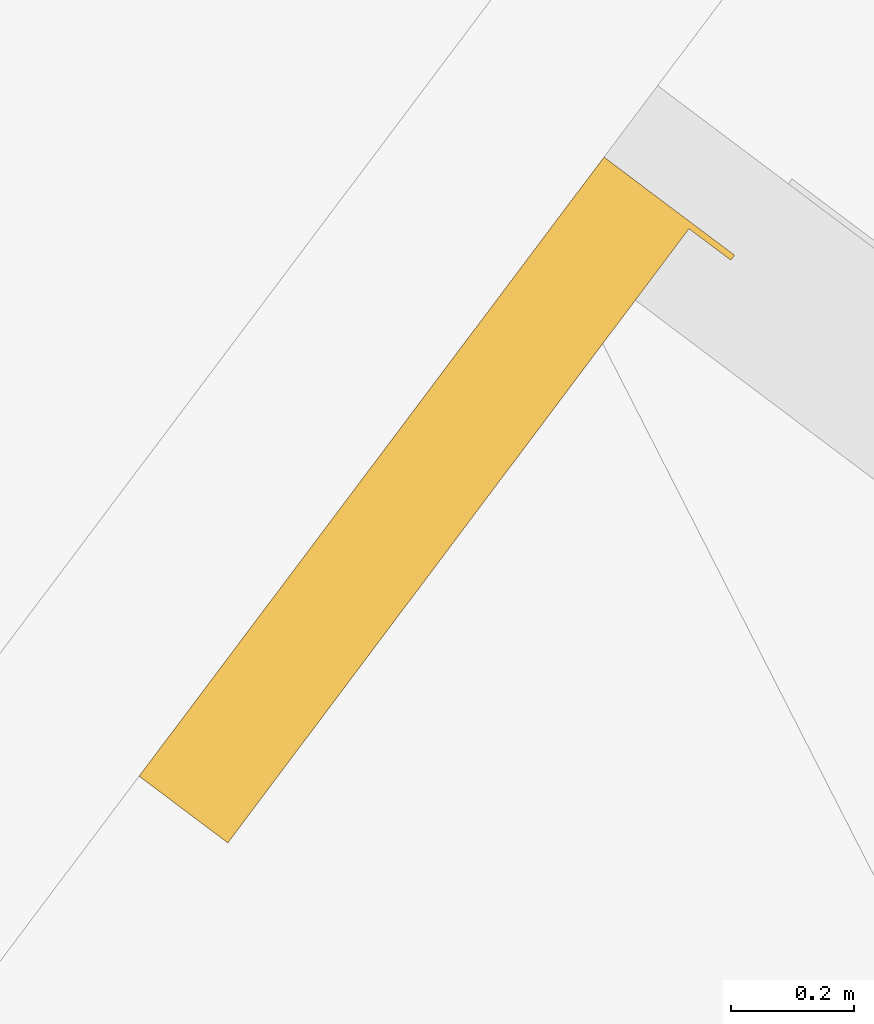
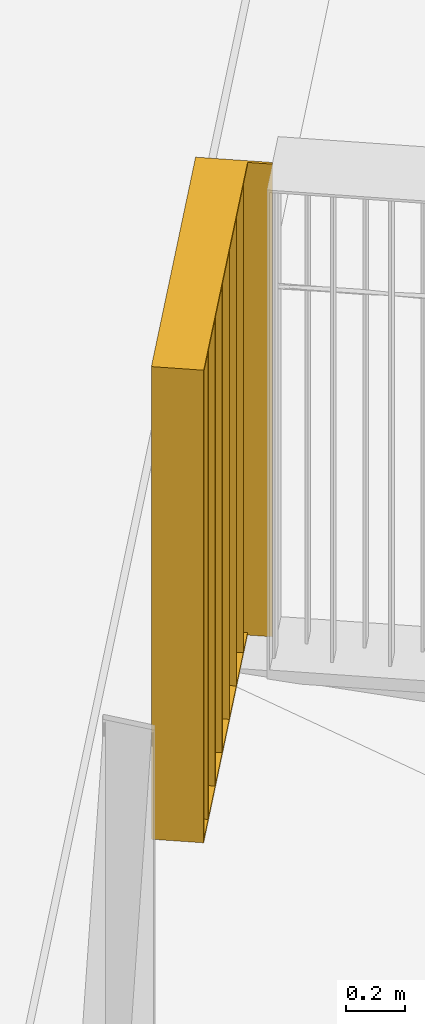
# One storey, part 32 of 33: 1 railing.
"""IFC2X3 building model written with IfcOpenShell, lengths in metres."""

from ifc_helpers import new_model, entity, si_unit, converted_unit, derived_unit, direction, frame, origin, place, context, subcontext, project, spatial, faceted_brep, source, transform, mapped, material, type_object, type_shapes, element, save


model = new_model("IFC2X3")

# Units and contexts
model_context = context("Model", 3, precision=1e-05, world=origin(), true_north=direction((6.123031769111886e-17, 1.0)))
body_context = subcontext(model_context, "Body", "Model", "MODEL_VIEW")
ifc_project = project(units=[si_unit("LENGTHUNIT", "METRE"), si_unit("AREAUNIT", "SQUARE_METRE"), si_unit("VOLUMEUNIT", "CUBIC_METRE"), converted_unit("PLANEANGLEUNIT", "DEGREE", entity("IfcRatioMeasure", 0.017453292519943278), si_unit("PLANEANGLEUNIT", "RADIAN"), dimensions=[0, 0, 0, 0, 0, 0, 0]), si_unit("MASSUNIT", "GRAM", prefix="KILO"), derived_unit("MASSDENSITYUNIT", [(si_unit("MASSUNIT", "GRAM", prefix="KILO"), 1), (si_unit("LENGTHUNIT", "METRE"), -3)]), derived_unit("IONCONCENTRATIONUNIT", [(si_unit("MASSUNIT", "GRAM", prefix="KILO"), 1), (si_unit("LENGTHUNIT", "METRE"), -3)]), derived_unit("MOMENTOFINERTIAUNIT", [(si_unit("LENGTHUNIT", "METRE"), 4)]), si_unit("TIMEUNIT", "SECOND"), si_unit("FREQUENCYUNIT", "HERTZ"), si_unit("THERMODYNAMICTEMPERATUREUNIT", "DEGREE_CELSIUS"), derived_unit("THERMALTRANSMITTANCEUNIT", [(si_unit("MASSUNIT", "GRAM", prefix="KILO"), 1), (si_unit("THERMODYNAMICTEMPERATUREUNIT", "KELVIN"), -1), (si_unit("TIMEUNIT", "SECOND"), -3)]), derived_unit("THERMALCONDUCTANCEUNIT", [(si_unit("MASSUNIT", "GRAM", prefix="KILO"), 1), (si_unit("THERMODYNAMICTEMPERATUREUNIT", "KELVIN"), -1), (si_unit("TIMEUNIT", "SECOND"), -3), (si_unit("LENGTHUNIT", "METRE"), 1)]), derived_unit("VOLUMETRICFLOWRATEUNIT", [(si_unit("LENGTHUNIT", "METRE"), 3), (si_unit("TIMEUNIT", "SECOND"), -1)]), derived_unit("MASSFLOWRATEUNIT", [(si_unit("MASSUNIT", "GRAM", prefix="KILO"), 1), (si_unit("TIMEUNIT", "SECOND"), -1)]), derived_unit("ROTATIONALFREQUENCYUNIT", [(si_unit("TIMEUNIT", "SECOND"), -1)]), si_unit("ELECTRICCURRENTUNIT", "AMPERE"), si_unit("ELECTRICVOLTAGEUNIT", "VOLT"), si_unit("POWERUNIT", "WATT"), si_unit("FORCEUNIT", "NEWTON", prefix="KILO"), si_unit("ILLUMINANCEUNIT", "LUX"), si_unit("LUMINOUSFLUXUNIT", "LUMEN"), si_unit("LUMINOUSINTENSITYUNIT", "CANDELA"), derived_unit("USERDEFINED", [(si_unit("MASSUNIT", "GRAM", prefix="KILO"), -1), (si_unit("LENGTHUNIT", "METRE"), -2), (si_unit("TIMEUNIT", "SECOND"), 3), (si_unit("LUMINOUSFLUXUNIT", "LUMEN"), 1)]), derived_unit("USERDEFINED", [(si_unit("MASSUNIT", "GRAM", prefix="KILO"), 1), (si_unit("TIMEUNIT", "SECOND"), -3), (si_unit("LENGTHUNIT", "METRE"), 3), (si_unit("ELECTRICCURRENTUNIT", "AMPERE"), -2)]), derived_unit("SOUNDPOWERUNIT", [(si_unit("MASSUNIT", "GRAM", prefix="KILO"), 1), (si_unit("TIMEUNIT", "SECOND"), -3), (si_unit("LENGTHUNIT", "METRE"), 2)]), derived_unit("SOUNDPRESSUREUNIT", [(si_unit("MASSUNIT", "GRAM", prefix="KILO"), 1), (si_unit("LENGTHUNIT", "METRE"), -1), (si_unit("TIMEUNIT", "SECOND"), -2)]), derived_unit("LINEARVELOCITYUNIT", [(si_unit("LENGTHUNIT", "METRE"), 1), (si_unit("TIMEUNIT", "SECOND"), -1)]), si_unit("PRESSUREUNIT", "PASCAL"), derived_unit("USERDEFINED", [(si_unit("MASSUNIT", "GRAM", prefix="KILO"), 1), (si_unit("LENGTHUNIT", "METRE"), -2), (si_unit("TIMEUNIT", "SECOND"), -2)]), derived_unit("LINEARFORCEUNIT", [(si_unit("MASSUNIT", "GRAM", prefix="KILO"), 1), (si_unit("TIMEUNIT", "SECOND"), -2)]), derived_unit("PLANARFORCEUNIT", [(si_unit("MASSUNIT", "GRAM", prefix="KILO"), 1), (si_unit("LENGTHUNIT", "METRE"), -1), (si_unit("TIMEUNIT", "SECOND"), -2)]), derived_unit("SPECIFICHEATCAPACITYUNIT", [(si_unit("THERMODYNAMICTEMPERATUREUNIT", "KELVIN"), -1), (si_unit("LENGTHUNIT", "METRE"), 2), (si_unit("TIMEUNIT", "SECOND"), -2)]), derived_unit("HEATINGVALUEUNIT", [(si_unit("LENGTHUNIT", "METRE"), 2), (si_unit("TIMEUNIT", "SECOND"), -2)]), derived_unit("VAPORPERMEABILITYUNIT", [(si_unit("LENGTHUNIT", "METRE"), -1), (si_unit("TIMEUNIT", "SECOND"), 1)]), derived_unit("DYNAMICVISCOSITYUNIT", [(si_unit("MASSUNIT", "GRAM", prefix="KILO"), 1), (si_unit("TIMEUNIT", "SECOND"), -1), (si_unit("LENGTHUNIT", "METRE"), -1)]), derived_unit("THERMALEXPANSIONCOEFFICIENTUNIT", [(si_unit("THERMODYNAMICTEMPERATUREUNIT", "KELVIN"), -1)]), derived_unit("MODULUSOFELASTICITYUNIT", [(si_unit("MASSUNIT", "GRAM", prefix="KILO"), 1), (si_unit("LENGTHUNIT", "METRE"), -1), (si_unit("TIMEUNIT", "SECOND"), -2)]), derived_unit("ISOTHERMALMOISTURECAPACITYUNIT", [(si_unit("LENGTHUNIT", "METRE"), 3), (si_unit("MASSUNIT", "GRAM", prefix="KILO"), -1)]), derived_unit("MOISTUREDIFFUSIVITYUNIT", [(si_unit("TIMEUNIT", "SECOND"), -1), (si_unit("LENGTHUNIT", "METRE"), 2)])], contexts=[model_context])

# Site, building, storey
site_placement = place(None, origin())
site = spatial("IfcSite", under=ifc_project, at=site_placement, Name="Superficie", CompositionType="ELEMENT")
building_placement = place(site_placement, frame((0.0, 0.0, 235.0), z_axis=(0.0, 0.0, 1.0), x_axis=(-0.7996477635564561, 0.6004693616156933, 0.0)))
building = spatial("IfcBuilding", under=site, at=building_placement, CompositionType="ELEMENT")
storey_placement = place(building_placement, origin())
storey = spatial("IfcBuildingStorey", under=building, at=storey_placement, Name="P0- Escola", CompositionType="ELEMENT", Elevation=0.0)

# Railing
ifc_material = material(Name="<Unnamed>")
railing_type = type_object("IfcRailingType", Name="SER URB- SM1d- TANCA LATERAL PETITA CANTONADA:SER URB- SM1d- TANCA LATERAL PETITA CANTONADA", PredefinedType="NOTDEFINED", material=ifc_material)
shared_shape = source(origin(), body_context, "Body", "Brep", [
    faceted_brep([(0.26500000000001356, 1.0300000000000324, 1.9599999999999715), (0.18500000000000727, 1.0300000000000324, 1.959999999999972), (0.18500000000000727, 1.0200000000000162, 1.959999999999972), (0.26500000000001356, 1.0200000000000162, 1.9599999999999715), (0.26500000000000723, 1.0300000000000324, 0.010000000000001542), (0.26500000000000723, 1.0200000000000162, 0.010000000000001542), (0.185000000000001, 1.0200000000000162, 0.010000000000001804), (0.185000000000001, 1.0300000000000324, 0.010000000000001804)], [[[0, 1, 2, 3]], [[4, 5, 6, 7]], [[1, 0, 4, 7]], [[2, 1, 7, 6]], [[3, 2, 6, 5]], [[0, 3, 5, 4]]]),
    faceted_brep([(0.08500000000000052, 1.1300000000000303, 1.9600000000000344), (0.08500000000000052, 1.120000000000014, 1.9600000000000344), (0.16500000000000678, 1.120000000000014, 1.9600000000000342), (0.16500000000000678, 1.1300000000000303, 1.9600000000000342), (0.08499999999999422, 1.1300000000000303, 0.010000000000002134), (0.16500000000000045, 1.1300000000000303, 0.010000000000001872), (0.16500000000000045, 1.120000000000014, 0.010000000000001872), (0.08499999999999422, 1.120000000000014, 0.010000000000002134)], [[[0, 1, 2, 3]], [[4, 5, 6, 7]], [[3, 5, 4, 0]], [[2, 6, 5, 3]], [[1, 7, 6, 2]], [[0, 4, 7, 1]]]),
    faceted_brep([(0.08500000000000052, 0.9300000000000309, 1.9600000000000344), (0.08500000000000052, 0.9200000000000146, 1.9600000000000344), (0.16500000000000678, 0.9200000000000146, 1.9600000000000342), (0.16500000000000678, 0.9300000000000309, 1.9600000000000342), (0.08499999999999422, 0.9300000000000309, 0.010000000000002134), (0.16500000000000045, 0.9300000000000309, 0.010000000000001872), (0.16500000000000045, 0.9200000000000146, 0.010000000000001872), (0.08499999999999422, 0.9200000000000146, 0.010000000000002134)], [[[0, 1, 2, 3]], [[4, 5, 6, 7]], [[3, 5, 4, 0]], [[2, 6, 5, 3]], [[1, 7, 6, 2]], [[0, 4, 7, 1]]]),
    faceted_brep([(0.26500000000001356, 0.8300000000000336, 1.9599999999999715), (0.18500000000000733, 0.8300000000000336, 1.959999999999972), (0.18500000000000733, 0.8200000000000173, 1.959999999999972), (0.26500000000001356, 0.8200000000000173, 1.9599999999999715), (0.26500000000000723, 0.8300000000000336, 0.010000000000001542), (0.26500000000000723, 0.8200000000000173, 0.010000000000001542), (0.185000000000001, 0.8200000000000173, 0.010000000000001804), (0.185000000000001, 0.8300000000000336, 0.010000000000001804)], [[[0, 1, 2, 3]], [[4, 5, 6, 7]], [[1, 0, 4, 7]], [[2, 1, 7, 6]], [[3, 2, 6, 5]], [[0, 3, 5, 4]]]),
    faceted_brep([(0.26500000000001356, 0.6300000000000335, 1.9599999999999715), (0.18500000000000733, 0.6300000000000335, 1.959999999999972), (0.18500000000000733, 0.6200000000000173, 1.959999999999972), (0.26500000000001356, 0.6200000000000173, 1.9599999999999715), (0.26500000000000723, 0.6300000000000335, 0.010000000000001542), (0.26500000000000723, 0.6200000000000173, 0.010000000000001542), (0.185000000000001, 0.6200000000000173, 0.010000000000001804), (0.185000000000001, 0.6300000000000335, 0.010000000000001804)], [[[0, 1, 2, 3]], [[4, 5, 6, 7]], [[1, 0, 4, 7]], [[2, 1, 7, 6]], [[3, 2, 6, 5]], [[0, 3, 5, 4]]]),
    faceted_brep([(0.2650000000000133, 0.43000000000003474, 1.9599999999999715), (0.185000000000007, 0.43000000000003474, 1.959999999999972), (0.185000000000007, 0.42000000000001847, 1.959999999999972), (0.2650000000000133, 0.4200000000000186, 1.9599999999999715), (0.26500000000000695, 0.43000000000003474, 0.010000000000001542), (0.26500000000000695, 0.4200000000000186, 0.010000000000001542), (0.18500000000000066, 0.42000000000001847, 0.010000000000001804), (0.18500000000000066, 0.43000000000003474, 0.010000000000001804)], [[[0, 1, 2, 3]], [[4, 5, 6, 7]], [[1, 0, 4, 7]], [[2, 1, 7, 6]], [[3, 2, 6, 5]], [[0, 3, 5, 4]]]),
    faceted_brep([(0.08500000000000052, 0.7300000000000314, 1.9600000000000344), (0.08500000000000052, 0.7200000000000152, 1.9600000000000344), (0.16500000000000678, 0.7200000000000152, 1.9600000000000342), (0.16500000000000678, 0.7300000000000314, 1.9600000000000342), (0.08499999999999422, 0.7300000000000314, 0.010000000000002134), (0.1650000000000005, 0.7300000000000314, 0.010000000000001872), (0.1650000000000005, 0.7200000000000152, 0.010000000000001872), (0.08499999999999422, 0.7200000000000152, 0.010000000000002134)], [[[0, 1, 2, 3]], [[4, 5, 6, 7]], [[3, 5, 4, 0]], [[2, 6, 5, 3]], [[1, 7, 6, 2]], [[0, 4, 7, 1]]]),
    faceted_brep([(0.08500000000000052, 0.5300000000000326, 1.9600000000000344), (0.08500000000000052, 0.5200000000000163, 1.9600000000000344), (0.16500000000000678, 0.5200000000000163, 1.9600000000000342), (0.16500000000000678, 0.5300000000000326, 1.9600000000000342), (0.08499999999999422, 0.5300000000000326, 0.010000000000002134), (0.1650000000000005, 0.5300000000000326, 0.010000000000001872), (0.1650000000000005, 0.5200000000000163, 0.010000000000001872), (0.08499999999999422, 0.5200000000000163, 0.010000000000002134)], [[[0, 1, 2, 3]], [[4, 5, 6, 7]], [[3, 5, 4, 0]], [[2, 6, 5, 3]], [[1, 7, 6, 2]], [[0, 4, 7, 1]]]),
    faceted_brep([(0.0850000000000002, 0.3300000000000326, 1.9600000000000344), (0.0850000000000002, 0.3200000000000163, 1.9600000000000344), (0.16500000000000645, 0.3200000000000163, 1.9600000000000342), (0.16500000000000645, 0.3300000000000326, 1.9600000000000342), (0.08499999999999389, 0.3300000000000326, 0.010000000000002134), (0.16500000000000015, 0.3300000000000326, 0.010000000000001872), (0.16500000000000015, 0.3200000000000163, 0.010000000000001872), (0.08499999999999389, 0.3200000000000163, 0.010000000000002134)], [[[0, 1, 2, 3]], [[4, 5, 6, 7]], [[3, 5, 4, 0]], [[2, 6, 5, 3]], [[1, 7, 6, 2]], [[0, 4, 7, 1]]]),
    faceted_brep([(0.26500000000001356, 0.2300000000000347, 1.9599999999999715), (0.18500000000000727, 0.2300000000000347, 1.959999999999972), (0.18500000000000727, 0.2200000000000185, 1.959999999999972), (0.26500000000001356, 0.2200000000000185, 1.9599999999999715), (0.26500000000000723, 0.2300000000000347, 0.010000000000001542), (0.26500000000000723, 0.2200000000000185, 0.010000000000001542), (0.185000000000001, 0.2200000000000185, 0.010000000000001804), (0.185000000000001, 0.2300000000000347, 0.010000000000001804)], [[[0, 1, 2, 3]], [[4, 5, 6, 7]], [[1, 0, 4, 7]], [[2, 1, 7, 6]], [[3, 2, 6, 5]], [[0, 3, 5, 4]]]),
    faceted_brep([(0.08500000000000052, 0.1300000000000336, 1.9600000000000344), (0.08500000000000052, 0.12000000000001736, 1.9600000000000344), (0.16500000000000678, 0.12000000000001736, 1.9600000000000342), (0.16500000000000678, 0.13000000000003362, 1.9600000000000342), (0.08499999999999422, 0.1300000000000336, 0.010000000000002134), (0.16500000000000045, 0.13000000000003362, 0.010000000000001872), (0.16500000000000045, 0.12000000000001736, 0.010000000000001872), (0.08499999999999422, 0.12000000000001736, 0.010000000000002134)], [[[0, 1, 2, 3]], [[4, 5, 6, 7]], [[3, 5, 4, 0]], [[2, 6, 5, 3]], [[1, 7, 6, 2]], [[0, 4, 7, 1]]]),
    faceted_brep([(0.16792893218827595, 0.01000000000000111, 1.4829289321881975), (0.17000000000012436, 0.01000000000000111, 1.4813397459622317), (0.1724118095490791, 0.01000000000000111, 1.4803407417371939), (0.17500000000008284, 0.01000000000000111, 1.4800000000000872), (0.17758819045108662, 0.01000000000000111, 1.4803407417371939), (0.18000000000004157, 0.01000000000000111, 1.4813397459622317), (0.18207106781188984, 0.01000000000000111, 1.4829289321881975), (0.18366025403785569, 0.01000000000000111, 1.485000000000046), (0.1846592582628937, 0.01000000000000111, 1.4874118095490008), (0.18500000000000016, 0.01000000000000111, 1.4900000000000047), (0.18465925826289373, 0.01000000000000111, 1.4925881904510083), (0.18366025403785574, 0.01000000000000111, 1.494999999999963), (0.18207106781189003, 0.01000000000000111, 1.4970710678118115), (0.18000000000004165, 0.01000000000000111, 1.4986602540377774), (0.17758819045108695, 0.01000000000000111, 1.4996592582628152), (0.1750000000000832, 0.01000000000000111, 1.4999999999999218), (0.1724118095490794, 0.01000000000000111, 1.4996592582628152), (0.17000000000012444, 0.01000000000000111, 1.4986602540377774), (0.16792893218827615, 0.01000000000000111, 1.4970710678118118), (0.1663397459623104, 0.01000000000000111, 1.4949999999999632), (0.16534074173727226, 0.01000000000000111, 1.4925881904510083), (0.16500000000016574, 0.01000000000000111, 1.4900000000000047), (0.16534074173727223, 0.01000000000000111, 1.4874118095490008), (0.16633974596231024, 0.01000000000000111, 1.485000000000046), (0.1724118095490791, 1.24600000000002, 1.4803407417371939), (0.17000000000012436, 1.24600000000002, 1.4813397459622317), (0.16792893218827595, 1.24600000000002, 1.4829289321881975), (0.16633974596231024, 1.24600000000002, 1.485000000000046), (0.16534074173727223, 1.24600000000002, 1.4874118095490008), (0.16500000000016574, 1.24600000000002, 1.4900000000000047), (0.16534074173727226, 1.24600000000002, 1.4925881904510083), (0.1663397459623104, 1.24600000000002, 1.4949999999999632), (0.16792893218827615, 1.24600000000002, 1.4970710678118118), (0.17000000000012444, 1.24600000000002, 1.4986602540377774), (0.1724118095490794, 1.24600000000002, 1.4996592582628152), (0.1750000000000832, 1.24600000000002, 1.4999999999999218), (0.17758819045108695, 1.24600000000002, 1.4996592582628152), (0.18000000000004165, 1.24600000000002, 1.4986602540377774), (0.18207106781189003, 1.24600000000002, 1.4970710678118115), (0.18366025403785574, 1.24600000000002, 1.494999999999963), (0.18465925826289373, 1.24600000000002, 1.4925881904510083), (0.18500000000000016, 1.24600000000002, 1.4900000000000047), (0.1846592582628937, 1.24600000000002, 1.4874118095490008), (0.18366025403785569, 1.24600000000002, 1.485000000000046), (0.18207106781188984, 1.24600000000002, 1.4829289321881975), (0.18000000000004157, 1.24600000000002, 1.4813397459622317), (0.17758819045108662, 1.24600000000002, 1.4803407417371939), (0.17500000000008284, 1.24600000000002, 1.4800000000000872), (0.18500000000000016, 1.1355826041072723, 1.4900000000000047), (0.16500000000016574, 1.13558260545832, 1.4900000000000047), (0.17500000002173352, 1.0803739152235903, 1.4999999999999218), (0.1749999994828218, 0.17562609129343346, 1.4999999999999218), (0.16500000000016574, 0.6502521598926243, 1.4900000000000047), (0.17379286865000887, 0.5507500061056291, 1.4999268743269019), (0.17537081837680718, 0.665637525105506, 1.4999931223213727), (0.16500000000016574, 0.12041739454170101, 1.4900000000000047), (0.18500000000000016, 0.12041739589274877, 1.4900000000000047), (0.1753672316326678, 0.4358226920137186, 1.4999932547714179), (0.18500000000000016, 0.3190000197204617, 1.4900000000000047), (0.18500000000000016, 0.34125216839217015, 1.4900000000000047), (0.18500000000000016, 0.45166956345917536, 1.4900000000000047), (0.18500000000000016, 0.4735000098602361, 1.4900000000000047), (0.16500000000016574, 0.23083475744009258, 1.4900000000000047), (0.1737259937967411, 0.29796368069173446, 1.499918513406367), (0.17500000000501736, 0.9396345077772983, 1.4999999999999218), (0.18500000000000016, 0.8265826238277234, 1.4900000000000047), (0.18500000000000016, 0.8488347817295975, 1.4900000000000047), (0.18500000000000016, 1.0251652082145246, 1.4900000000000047), (0.18500000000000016, 0.6280000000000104, 1.4900000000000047), (0.16500000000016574, 1.02516521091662, 1.4900000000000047), (0.16500000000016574, 0.8488347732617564, 1.4900000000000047), (0.18500000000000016, 0.2308347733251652, 1.4900000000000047), (0.16500000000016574, 0.4516695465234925, 1.4900000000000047), (0.17484716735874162, 0.8267840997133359, 1.4999988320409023), (0.16500000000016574, 0.3412521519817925, 1.4900000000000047), (0.16500000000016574, 0.3190000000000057, 1.4900000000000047), (0.16500000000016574, 0.6280000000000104, 1.4900000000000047), (0.16500000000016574, 0.4735000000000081, 1.4900000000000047), (0.18500000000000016, 0.6502521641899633, 1.4900000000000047), (0.16500000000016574, 0.8265826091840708, 1.4900000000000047), (0.1749999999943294, 1.080373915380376, 1.4800000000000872), (0.1750000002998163, 0.17562609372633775, 1.4800000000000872), (0.17463276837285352, 0.43582269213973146, 1.4800067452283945), (0.17627400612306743, 0.2979636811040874, 1.4800814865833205), (0.17499999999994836, 0.939634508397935, 1.4800000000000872), (0.1746291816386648, 0.66563752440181, 1.4800068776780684), (0.17620713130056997, 0.5507500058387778, 1.4800731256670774), (0.17515283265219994, 0.8267841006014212, 1.4800011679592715)], [[[0, 1, 2, 3, 4, 5, 6, 7, 8, 9, 10, 11, 12, 13, 14, 15, 16, 17, 18, 19, 20, 21, 22, 23]], [[24, 25, 26, 27, 28, 29, 30, 31, 32, 33, 34, 35, 36, 37, 38, 39, 40, 41, 42, 43, 44, 45, 46, 47]], [[39, 38, 48]], [[49, 32, 31]], [[34, 33, 50]], [[35, 50, 36]], [[14, 51, 15]], [[52, 53, 54]], [[55, 19, 18]], [[48, 41, 40]], [[10, 9, 56]], [[33, 32, 49]], [[33, 49, 50]], [[37, 48, 38]], [[57, 58, 59, 60, 61]], [[62, 55, 51]], [[51, 17, 16]], [[51, 58, 63]], [[31, 30, 49]], [[51, 63, 62]], [[10, 56, 11]], [[30, 29, 49]], [[55, 21, 20]], [[15, 51, 16]], [[34, 50, 35]], [[50, 64, 65, 66, 67, 48]], [[54, 53, 68]], [[49, 69, 70, 64, 50]], [[51, 56, 71, 58]], [[39, 48, 40]], [[68, 53, 61]], [[55, 18, 17]], [[36, 50, 37]], [[72, 57, 53]], [[56, 12, 11]], [[12, 56, 13]], [[48, 37, 50]], [[73, 52, 54]], [[19, 55, 20]], [[57, 74, 63]], [[51, 13, 56]], [[64, 70, 73]], [[51, 14, 13]], [[55, 17, 51]], [[74, 57, 72]], [[61, 53, 57]], [[63, 74, 75, 62]], [[53, 52, 76, 77, 72]], [[58, 57, 63]], [[54, 68, 78, 65]], [[73, 65, 64]], [[73, 70, 79, 52]], [[54, 65, 73]], [[56, 7, 6]], [[24, 80, 25]], [[45, 80, 46]], [[47, 80, 24]], [[2, 81, 3]], [[27, 26, 49]], [[48, 44, 43]], [[28, 49, 29]], [[22, 21, 55]], [[45, 44, 48]], [[81, 55, 62, 75]], [[45, 48, 80]], [[56, 5, 81]], [[82, 75, 74, 72, 77]], [[3, 81, 4]], [[46, 80, 47]], [[71, 56, 81]], [[23, 22, 55]], [[81, 5, 4]], [[25, 49, 26]], [[71, 81, 83]], [[83, 81, 75]], [[8, 56, 9]], [[42, 41, 48]], [[80, 84, 79, 70, 69, 49]], [[85, 86, 76]], [[48, 67, 66, 84, 80]], [[27, 49, 28]], [[76, 86, 77]], [[56, 6, 5]], [[78, 86, 85]], [[60, 82, 86]], [[0, 23, 55]], [[0, 55, 1]], [[49, 25, 80]], [[87, 78, 85]], [[7, 56, 8]], [[82, 59, 83]], [[1, 55, 81]], [[84, 66, 87]], [[81, 2, 1]], [[43, 42, 48]], [[59, 82, 60]], [[77, 86, 82]], [[83, 59, 58, 71]], [[86, 78, 68, 61, 60]], [[75, 82, 83]], [[85, 76, 52, 79]], [[87, 79, 84]], [[87, 66, 65, 78]], [[85, 79, 87]]]),
    faceted_brep([(0.0, 0.0, 0.0), (0.0, 0.010000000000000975, 0.0), (0.08500000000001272, 0.010000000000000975, 0.0), (0.08500000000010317, 1.256000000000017, 0.0), (0.2649999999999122, 1.256000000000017, 0.0), (0.26499999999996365, 0.0, 0.0), (0.0, 0.0, 1.970000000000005), (0.0, 0.010000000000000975, 1.970000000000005), (0.0850000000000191, 0.010000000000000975, 1.9700000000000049), (0.08500000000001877, 0.010000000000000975, 1.9600000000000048), (0.2649999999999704, 0.010000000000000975, 1.9600000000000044), (0.26499999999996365, 0.010000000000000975, 0.010000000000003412), (0.08500000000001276, 0.010000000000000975, 0.010000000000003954), (0.0850000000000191, 1.256000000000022, 1.9700000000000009), (0.08500000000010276, 1.2460000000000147, 0.010000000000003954), (0.08500000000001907, 1.2460000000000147, 1.9600000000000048), (0.2649999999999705, 1.256000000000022, 1.9700000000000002), (0.2649999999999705, 0.0, 1.9700000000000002), (0.2649999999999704, 1.2460000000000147, 1.9600000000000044), (0.2649999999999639, 1.2460000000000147, 0.010000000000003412)], [[[0, 1, 2, 3, 4, 5]], [[6, 7, 1, 0]], [[7, 8, 9, 10, 11, 12, 2, 1]], [[9, 8, 13, 3, 2, 12, 14, 15]], [[3, 13, 16, 4]], [[5, 4, 16, 17], [18, 19, 11, 10]], [[6, 0, 5, 17]], [[11, 19, 14, 12]], [[18, 15, 14, 19]], [[8, 7, 6, 17, 16, 13]], [[18, 10, 9, 15]]]),
])
type_shapes(railing_type, [shared_shape])
railing_placement = place(storey_placement, frame((9.960147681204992, -12.020191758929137, -0.6900000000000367)))
element("IfcRailing", 1, at=railing_placement, inside=storey, type_object=railing_type, material=ifc_material, Name="SER URB- SM1d- TANCA LATERAL PETITA CANTONADA:SER URB- SM1d- TANCA LATERAL PETITA CANTONADA", ObjectType="SER URB- SM1d- TANCA LATERAL PETITA CANTONADA:SER URB- SM1d- TANCA LATERAL PETITA CANTONADA", PredefinedType="NOTDEFINED", context=body_context, shape_type="MappedRepresentation", body=[
    mapped(shared_shape, transform((0.0, 0.0, 0.0), scale=1.0)),
])

save(model, "model.ifc")
